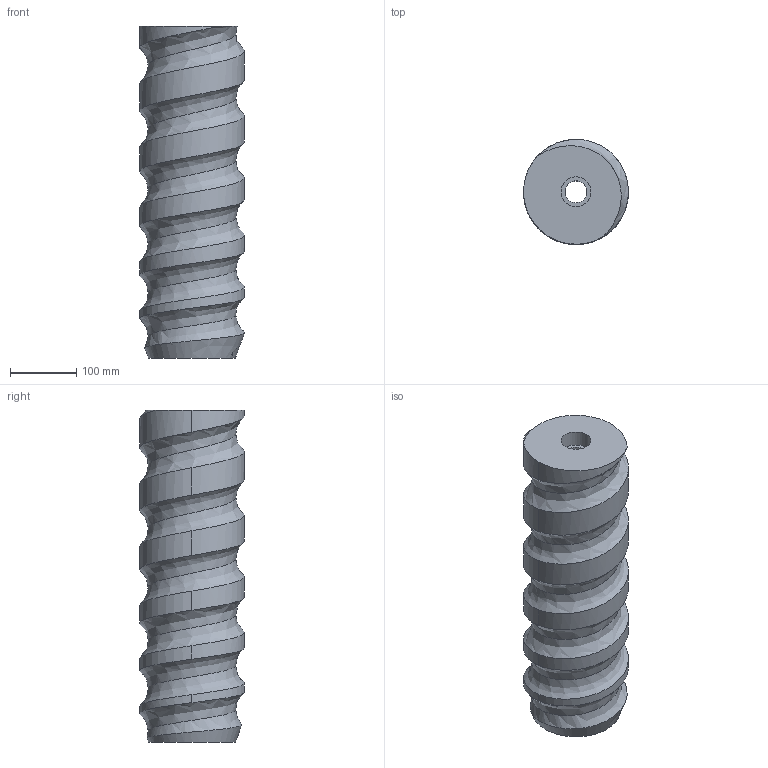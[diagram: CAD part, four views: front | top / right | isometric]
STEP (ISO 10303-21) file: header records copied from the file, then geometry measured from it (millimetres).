
FILE_DESCRIPTION(/* description */ ('Шнек'),/* implementation_level */ '2;1');
FILE_NAME(/* name */ 'B:\Inventor\Проекты\Омск\Ринзер CBI проект Bud 0.44\Файлы\Шнек\STEP\Шнек OMG-R-01-20.stp',/* time_stamp */ '2021-06-05T20:12:33+07:00',/* author */ ('kolma_arsicqz'),/* organization */ (''),/* preprocessor_version */ 'ST-DEVELOPER v18',/* originating_system */ 'Autodesk Inventor 2020',/* authorisation */ '');
FILE_SCHEMA (('AUTOMOTIVE_DESIGN { 1 0 10303 214 3 1 1 }'));
Length unit declared in the file: millimetre
Products named in the file (1): OMG-R-01-020
Bounding box: 158 x 158 x 500 mm (x, y, z)
Volume: 7946145.7 mm3; surface area: 333765.7 mm2
Topology: 1 solids, 1 shells, 17 faces, 45 edges, 32 vertices
Faces by surface type: cylinder 10, plane 4, bspline 2, cone 1
Full cylindrical faces by diameter (mm): 33 x1, 34 x1, 45 x1, 158 x5
Entity records: 8293 total; most frequent: CARTESIAN_POINT 7850, ORIENTED_EDGE 90, DIRECTION 70, EDGE_CURVE 45, VERTEX_POINT 32, AXIS2_PLACEMENT_3D 30, EDGE_LOOP 21, B_SPLINE_CURVE_WITH_KNOTS 21
